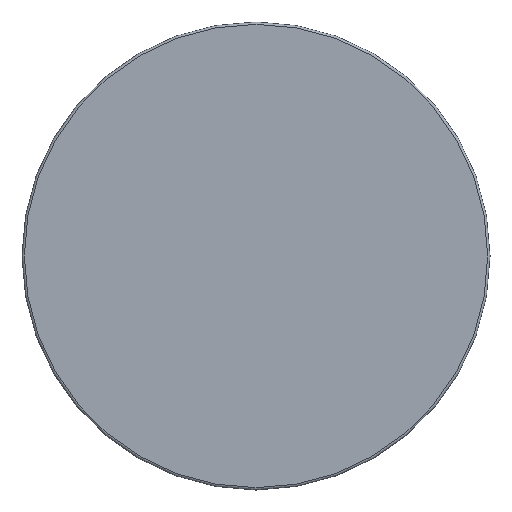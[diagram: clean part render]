
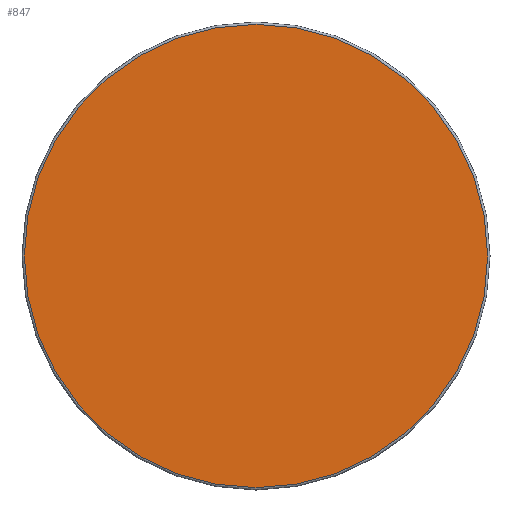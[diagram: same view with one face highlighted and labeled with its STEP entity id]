
A CAD part, left-side view. The second image highlights one B-rep face of the part: STEP entity #847.
In plain terms, the highlighted planar face has unit normal (-1, 0, 0).
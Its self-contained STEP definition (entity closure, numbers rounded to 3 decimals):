
#824=CARTESIAN_POINT('',(0.0,99.0,0.0));
#825=VERTEX_POINT('',#824);
#826=CARTESIAN_POINT('',(0.0,0.0,0.0));
#827=DIRECTION('',(1.0,0.0,0.0));
#828=DIRECTION('',(0.0,-1.0,0.0));
#829=AXIS2_PLACEMENT_3D('',#826,#827,#828);
#830=CIRCLE('',#829,99.0);
#831=EDGE_CURVE('',#825,#825,#830,.T.);
#839=CARTESIAN_POINT('',(0.0,85.0,0.));
#840=DIRECTION('',(-1.0,0.0,0.0));
#841=DIRECTION('',(0.0,0.0,1.0));
#842=AXIS2_PLACEMENT_3D('',#839,#840,#841);
#843=PLANE('',#842);
#844=ORIENTED_EDGE('',*,*,#831,.F.);
#845=EDGE_LOOP('',(#844));
#846=FACE_OUTER_BOUND('',#845,.T.);
#847=ADVANCED_FACE('',(#846),#843,.T.);
